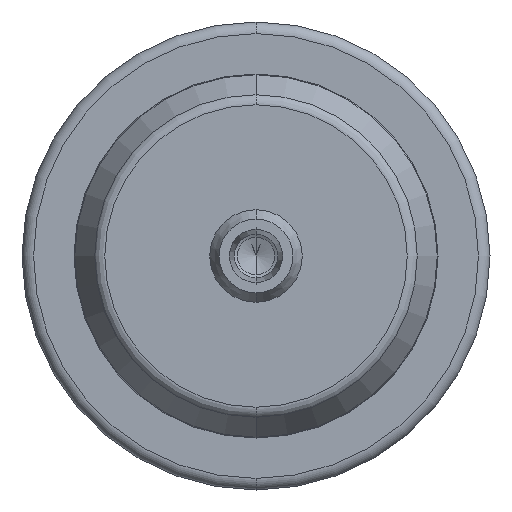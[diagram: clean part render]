
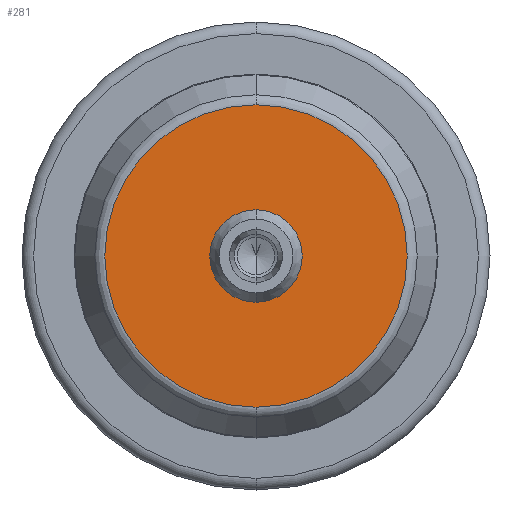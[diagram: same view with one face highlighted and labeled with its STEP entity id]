
A CAD part, front view. The second image highlights one B-rep face of the part: STEP entity #281.
In plain terms, the highlighted planar face has unit normal (0, -1, 0).
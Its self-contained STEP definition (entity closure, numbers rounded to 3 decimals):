
#5 = DIRECTION ( 'NONE',  ( 0., 0., -1. ) ) ;
#33 = DIRECTION ( 'NONE',  ( 0., -1., 0. ) ) ;
#62 = CARTESIAN_POINT ( 'NONE',  ( 26.17, -17., 0. ) ) ;
#121 = CARTESIAN_POINT ( 'NONE',  ( 0., -17., 0. ) ) ;
#281 = ADVANCED_FACE ( 'NONE', ( #8922, #4069 ), #8278, .T. ) ;
#371 = EDGE_CURVE ( 'NONE', #4598, #5200, #1982, .T. ) ;
#400 = CARTESIAN_POINT ( 'NONE',  ( 0., -17., 6. ) ) ;
#808 = CARTESIAN_POINT ( 'NONE',  ( 0., -17., 0. ) ) ;
#882 = DIRECTION ( 'NONE',  ( 0., 0., -1. ) ) ;
#1165 = CARTESIAN_POINT ( 'NONE',  ( 0., -17., -26.17 ) ) ;
#1561 = EDGE_LOOP ( 'NONE', ( #1710, #4432 ) ) ;
#1663 = DIRECTION ( 'NONE',  ( 0., -1., 0. ) ) ;
#1710 = ORIENTED_EDGE ( 'NONE', *, *, #371, .F. ) ;
#1880 = DIRECTION ( 'NONE',  ( 0., -1., 0. ) ) ;
#1928 = EDGE_CURVE ( 'NONE', #4239, #6100, #10212, .T. ) ;
#1982 = CIRCLE ( 'NONE', #5648, 6. ) ;
#2537 = CARTESIAN_POINT ( 'NONE',  ( 0., -17., 0. ) ) ;
#2798 = CIRCLE ( 'NONE', #4021, 6. ) ;
#3578 = AXIS2_PLACEMENT_3D ( 'NONE', #7250, #9110, #7191 ) ;
#4021 = AXIS2_PLACEMENT_3D ( 'NONE', #121, #1880, #8441 ) ;
#4069 = FACE_BOUND ( 'NONE', #1561, .T. ) ;
#4083 = ORIENTED_EDGE ( 'NONE', *, *, #5010, .T. ) ;
#4239 = VERTEX_POINT ( 'NONE', #1165 ) ;
#4432 = ORIENTED_EDGE ( 'NONE', *, *, #7860, .F. ) ;
#4598 = VERTEX_POINT ( 'NONE', #5269 ) ;
#5010 = EDGE_CURVE ( 'NONE', #6100, #4239, #9503, .T. ) ;
#5051 = DIRECTION ( 'NONE',  ( 0., -1., 0. ) ) ;
#5162 = AXIS2_PLACEMENT_3D ( 'NONE', #808, #33, #5793 ) ;
#5200 = VERTEX_POINT ( 'NONE', #400 ) ;
#5269 = CARTESIAN_POINT ( 'NONE',  ( 0., -17., -6. ) ) ;
#5543 = EDGE_LOOP ( 'NONE', ( #8297, #4083 ) ) ;
#5648 = AXIS2_PLACEMENT_3D ( 'NONE', #2537, #5051, #882 ) ;
#5793 = DIRECTION ( 'NONE',  ( 0., 0., -1. ) ) ;
#5834 = AXIS2_PLACEMENT_3D ( 'NONE', #62, #1663, #5 ) ;
#6100 = VERTEX_POINT ( 'NONE', #7099 ) ;
#7099 = CARTESIAN_POINT ( 'NONE',  ( 0., -17., 26.17 ) ) ;
#7191 = DIRECTION ( 'NONE',  ( 0., 0., -1. ) ) ;
#7250 = CARTESIAN_POINT ( 'NONE',  ( 0., -17., 0. ) ) ;
#7860 = EDGE_CURVE ( 'NONE', #5200, #4598, #2798, .T. ) ;
#8278 = PLANE ( 'NONE',  #5834 ) ;
#8297 = ORIENTED_EDGE ( 'NONE', *, *, #1928, .T. ) ;
#8441 = DIRECTION ( 'NONE',  ( 0., 0., -1. ) ) ;
#8922 = FACE_OUTER_BOUND ( 'NONE', #5543, .T. ) ;
#9110 = DIRECTION ( 'NONE',  ( 0., -1., 0. ) ) ;
#9503 = CIRCLE ( 'NONE', #3578, 26.17 ) ;
#10212 = CIRCLE ( 'NONE', #5162, 26.17 ) ;
